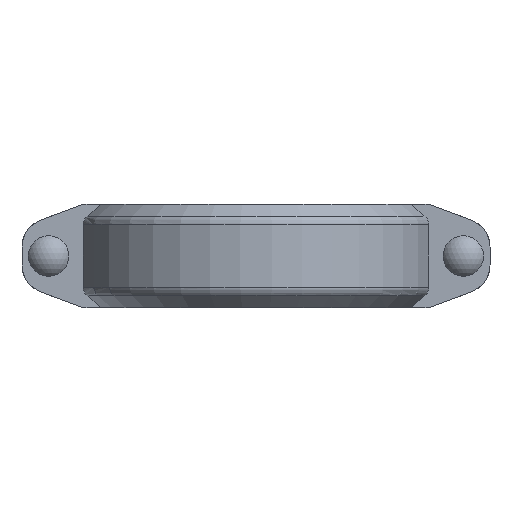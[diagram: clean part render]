
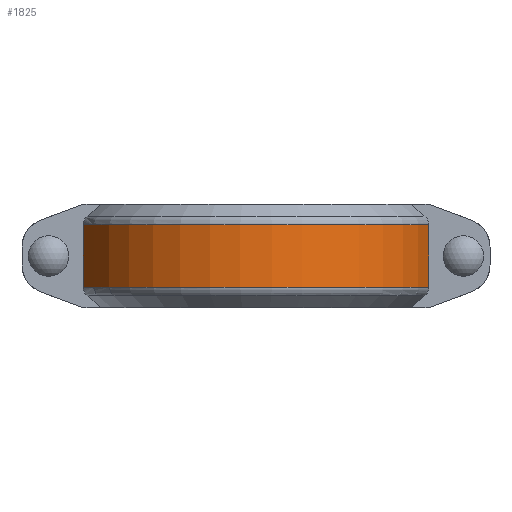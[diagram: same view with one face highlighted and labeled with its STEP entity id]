
A CAD part, front view. The second image highlights one B-rep face of the part: STEP entity #1825.
In plain terms, the highlighted cylindrical face has radius 98.425 mm (diameter 196.85 mm), a partial arc.
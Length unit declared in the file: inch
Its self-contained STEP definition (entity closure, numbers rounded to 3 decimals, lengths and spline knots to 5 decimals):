
#219=FACE_OUTER_BOUND('',#326,.T.);
#326=EDGE_LOOP('',(#1577,#1578,#1579,#1580));
#464=LINE('',#3003,#613);
#483=LINE('',#3147,#632);
#613=VECTOR('',#2475,0.3937);
#632=VECTOR('',#2520,0.3937);
#687=CIRCLE('',#2044,3.875);
#690=CIRCLE('',#2049,3.875);
#840=VERTEX_POINT('',#2989);
#841=VERTEX_POINT('',#3002);
#862=VERTEX_POINT('',#3133);
#863=VERTEX_POINT('',#3146);
#1069=EDGE_CURVE('',#841,#840,#464,.T.);
#1101=EDGE_CURVE('',#863,#862,#483,.T.);
#1108=EDGE_CURVE('',#863,#840,#687,.T.);
#1111=EDGE_CURVE('',#862,#841,#690,.T.);
#1577=ORIENTED_EDGE('',*,*,#1101,.T.);
#1578=ORIENTED_EDGE('',*,*,#1111,.T.);
#1579=ORIENTED_EDGE('',*,*,#1069,.T.);
#1580=ORIENTED_EDGE('',*,*,#1108,.F.);
#1649=CYLINDRICAL_SURFACE('',#2048,3.875);
#1825=ADVANCED_FACE('',(#219),#1649,.T.);
#2044=AXIS2_PLACEMENT_3D('',#3172,#2534,#2535);
#2048=AXIS2_PLACEMENT_3D('',#3176,#2542,#2543);
#2049=AXIS2_PLACEMENT_3D('',#3177,#2544,#2545);
#2475=DIRECTION('',(0.,0.,-1.));
#2520=DIRECTION('',(0.,0.,1.));
#2534=DIRECTION('center_axis',(0.,0.,-1.));
#2535=DIRECTION('ref_axis',(1.,0.,0.));
#2542=DIRECTION('center_axis',(0.,0.,-1.));
#2543=DIRECTION('ref_axis',(0.,1.,0.));
#2544=DIRECTION('center_axis',(0.,0.,-1.));
#2545=DIRECTION('ref_axis',(1.,0.,0.));
#2989=CARTESIAN_POINT('',(3.74374,1.,-0.67167));
#3002=CARTESIAN_POINT('',(3.74374,1.,0.67167));
#3003=CARTESIAN_POINT('',(3.74374,1.,0.));
#3133=CARTESIAN_POINT('',(-3.74374,1.,0.67167));
#3146=CARTESIAN_POINT('',(-3.74374,1.,-0.67167));
#3147=CARTESIAN_POINT('',(-3.74374,1.,0.));
#3172=CARTESIAN_POINT('Origin',(0.,0.,-0.67167));
#3176=CARTESIAN_POINT('Origin',(0.,0.,0.));
#3177=CARTESIAN_POINT('Origin',(0.,0.,0.67167));
